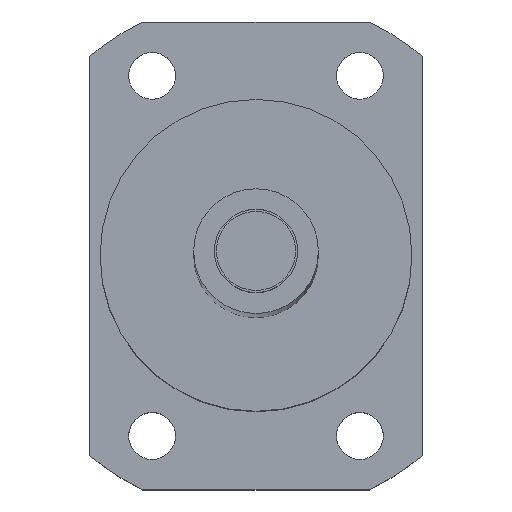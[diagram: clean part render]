
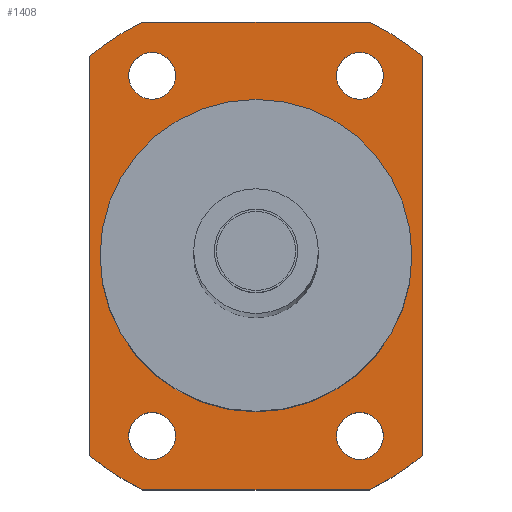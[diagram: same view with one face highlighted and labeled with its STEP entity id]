
A CAD part, top view. The second image highlights one B-rep face of the part: STEP entity #1408.
In plain terms, the highlighted planar face has unit normal (0, 0, 1).
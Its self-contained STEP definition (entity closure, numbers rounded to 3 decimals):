
#328=CARTESIAN_POINT('',(10.,17.321,305.));
#329=DIRECTION('',(0.,0.,-1.));
#330=DIRECTION('',(1.,0.,0.));
#331=AXIS2_PLACEMENT_3D('',#328,#329,#330);
#333=CARTESIAN_POINT('',(10.,17.321,305.));
#334=DIRECTION('',(0.,0.,-1.));
#335=DIRECTION('',(-1.,0.,0.));
#336=AXIS2_PLACEMENT_3D('',#333,#334,#335);
#338=CARTESIAN_POINT('',(-10.,17.321,305.));
#339=DIRECTION('',(0.,0.,-1.));
#340=DIRECTION('',(1.,0.,0.));
#341=AXIS2_PLACEMENT_3D('',#338,#339,#340);
#343=CARTESIAN_POINT('',(-10.,17.321,305.));
#344=DIRECTION('',(0.,0.,-1.));
#345=DIRECTION('',(-1.,0.,0.));
#346=AXIS2_PLACEMENT_3D('',#343,#344,#345);
#348=CARTESIAN_POINT('',(10.,-17.321,305.));
#349=DIRECTION('',(0.,0.,-1.));
#350=DIRECTION('',(1.,0.,0.));
#351=AXIS2_PLACEMENT_3D('',#348,#349,#350);
#353=CARTESIAN_POINT('',(10.,-17.321,305.));
#354=DIRECTION('',(0.,0.,-1.));
#355=DIRECTION('',(-1.,0.,0.));
#356=AXIS2_PLACEMENT_3D('',#353,#354,#355);
#358=CARTESIAN_POINT('',(-10.,-17.321,305.));
#359=DIRECTION('',(0.,0.,-1.));
#360=DIRECTION('',(1.,0.,0.));
#361=AXIS2_PLACEMENT_3D('',#358,#359,#360);
#363=CARTESIAN_POINT('',(-10.,-17.321,305.));
#364=DIRECTION('',(0.,0.,-1.));
#365=DIRECTION('',(-1.,0.,0.));
#366=AXIS2_PLACEMENT_3D('',#363,#364,#365);
#368=CARTESIAN_POINT('',(0.,0.,305.));
#369=DIRECTION('',(0.,0.,1.));
#370=DIRECTION('',(1.,0.,0.));
#371=AXIS2_PLACEMENT_3D('',#368,#369,#370);
#373=CARTESIAN_POINT('',(0.,0.,305.));
#374=DIRECTION('',(0.,0.,1.));
#375=DIRECTION('',(-1.,0.,0.));
#376=AXIS2_PLACEMENT_3D('',#373,#374,#375);
#378=DIRECTION('',(1.,0.,0.));
#379=VECTOR('',#378,21.794);
#380=CARTESIAN_POINT('',(-10.897,22.5,305.));
#381=LINE('',#380,#379);
#382=CARTESIAN_POINT('',(0.,0.,305.));
#383=DIRECTION('',(0.,0.,1.));
#384=DIRECTION('',(0.64,0.768,0.));
#385=AXIS2_PLACEMENT_3D('',#382,#383,#384);
#387=DIRECTION('',(0.,1.,0.));
#388=VECTOR('',#387,38.419);
#389=CARTESIAN_POINT('',(16.,-19.209,305.));
#390=LINE('',#389,#388);
#391=CARTESIAN_POINT('',(0.,0.,305.));
#392=DIRECTION('',(0.,0.,1.));
#393=DIRECTION('',(0.436,-0.9,0.));
#394=AXIS2_PLACEMENT_3D('',#391,#392,#393);
#396=DIRECTION('',(1.,0.,0.));
#397=VECTOR('',#396,21.794);
#398=CARTESIAN_POINT('',(-10.897,-22.5,305.));
#399=LINE('',#398,#397);
#400=CARTESIAN_POINT('',(0.,0.,305.));
#401=DIRECTION('',(0.,0.,1.));
#402=DIRECTION('',(-0.64,-0.768,0.));
#403=AXIS2_PLACEMENT_3D('',#400,#401,#402);
#405=DIRECTION('',(0.,-1.,0.));
#406=VECTOR('',#405,38.419);
#407=CARTESIAN_POINT('',(-16.,19.209,305.));
#408=LINE('',#407,#406);
#409=CARTESIAN_POINT('',(0.,0.,305.));
#410=DIRECTION('',(0.,0.,1.));
#411=DIRECTION('',(-0.436,0.9,0.));
#412=AXIS2_PLACEMENT_3D('',#409,#410,#411);
#721=CARTESIAN_POINT('',(12.25,17.321,305.));
#722=CARTESIAN_POINT('',(7.75,17.321,305.));
#723=VERTEX_POINT('',#721);
#724=VERTEX_POINT('',#722);
#725=CARTESIAN_POINT('',(-7.75,17.321,305.));
#726=CARTESIAN_POINT('',(-12.25,17.321,305.));
#727=VERTEX_POINT('',#725);
#728=VERTEX_POINT('',#726);
#729=CARTESIAN_POINT('',(12.25,-17.321,305.));
#730=CARTESIAN_POINT('',(7.75,-17.321,305.));
#731=VERTEX_POINT('',#729);
#732=VERTEX_POINT('',#730);
#733=CARTESIAN_POINT('',(-7.75,-17.321,305.));
#734=CARTESIAN_POINT('',(-12.25,-17.321,305.));
#735=VERTEX_POINT('',#733);
#736=VERTEX_POINT('',#734);
#737=CARTESIAN_POINT('',(-16.,19.209,305.));
#738=CARTESIAN_POINT('',(-16.,-19.209,305.));
#739=VERTEX_POINT('',#737);
#740=VERTEX_POINT('',#738);
#741=CARTESIAN_POINT('',(16.,-19.209,305.));
#742=CARTESIAN_POINT('',(16.,19.209,305.));
#743=VERTEX_POINT('',#741);
#744=VERTEX_POINT('',#742);
#753=CARTESIAN_POINT('',(15.,0.,305.));
#754=CARTESIAN_POINT('',(-15.,0.,305.));
#755=VERTEX_POINT('',#753);
#756=VERTEX_POINT('',#754);
#829=CARTESIAN_POINT('',(-10.897,22.5,305.));
#830=CARTESIAN_POINT('',(10.897,22.5,305.));
#831=VERTEX_POINT('',#829);
#832=VERTEX_POINT('',#830);
#833=CARTESIAN_POINT('',(-10.897,-22.5,305.));
#834=CARTESIAN_POINT('',(10.897,-22.5,305.));
#835=VERTEX_POINT('',#833);
#836=VERTEX_POINT('',#834);
#1357=CARTESIAN_POINT('',(0.,0.,305.));
#1358=DIRECTION('',(0.,0.,1.));
#1359=DIRECTION('',(1.,0.,0.));
#1360=AXIS2_PLACEMENT_3D('',#1357,#1358,#1359);
#1361=PLANE('',#1360);
#1363=ORIENTED_EDGE('',*,*,#1362,.T.);
#1365=ORIENTED_EDGE('',*,*,#1364,.F.);
#1367=ORIENTED_EDGE('',*,*,#1366,.F.);
#1369=ORIENTED_EDGE('',*,*,#1368,.F.);
#1371=ORIENTED_EDGE('',*,*,#1370,.F.);
#1373=ORIENTED_EDGE('',*,*,#1372,.F.);
#1375=ORIENTED_EDGE('',*,*,#1374,.F.);
#1377=ORIENTED_EDGE('',*,*,#1376,.F.);
#1378=EDGE_LOOP('',(#1363,#1365,#1367,#1369,#1371,#1373,#1375,#1377));
#1379=FACE_OUTER_BOUND('',#1378,.F.);
#1380=ORIENTED_EDGE('',*,*,#1337,.F.);
#1381=ORIENTED_EDGE('',*,*,#1351,.F.);
#1382=EDGE_LOOP('',(#1380,#1381));
#1383=FACE_BOUND('',#1382,.F.);
#1385=ORIENTED_EDGE('',*,*,#1384,.F.);
#1387=ORIENTED_EDGE('',*,*,#1386,.F.);
#1388=EDGE_LOOP('',(#1385,#1387));
#1389=FACE_BOUND('',#1388,.F.);
#1391=ORIENTED_EDGE('',*,*,#1390,.F.);
#1393=ORIENTED_EDGE('',*,*,#1392,.F.);
#1394=EDGE_LOOP('',(#1391,#1393));
#1395=FACE_BOUND('',#1394,.F.);
#1397=ORIENTED_EDGE('',*,*,#1396,.F.);
#1399=ORIENTED_EDGE('',*,*,#1398,.F.);
#1400=EDGE_LOOP('',(#1397,#1399));
#1401=FACE_BOUND('',#1400,.F.);
#1403=ORIENTED_EDGE('',*,*,#1402,.T.);
#1405=ORIENTED_EDGE('',*,*,#1404,.T.);
#1406=EDGE_LOOP('',(#1403,#1405));
#1407=FACE_BOUND('',#1406,.F.);
#1408=ADVANCED_FACE('',(#1379,#1383,#1389,#1395,#1401,#1407),#1361,.T.);
#332=CIRCLE('',#331,2.25);
#337=CIRCLE('',#336,2.25);
#342=CIRCLE('',#341,2.25);
#347=CIRCLE('',#346,2.25);
#352=CIRCLE('',#351,2.25);
#357=CIRCLE('',#356,2.25);
#362=CIRCLE('',#361,2.25);
#367=CIRCLE('',#366,2.25);
#372=CIRCLE('',#371,15.);
#377=CIRCLE('',#376,15.);
#386=CIRCLE('',#385,25.);
#395=CIRCLE('',#394,25.);
#404=CIRCLE('',#403,25.);
#413=CIRCLE('',#412,25.);
#1337=EDGE_CURVE('',#723,#724,#332,.T.);
#1351=EDGE_CURVE('',#724,#723,#337,.T.);
#1362=EDGE_CURVE('',#831,#832,#381,.T.);
#1364=EDGE_CURVE('',#744,#832,#386,.T.);
#1366=EDGE_CURVE('',#743,#744,#390,.T.);
#1368=EDGE_CURVE('',#836,#743,#395,.T.);
#1370=EDGE_CURVE('',#835,#836,#399,.T.);
#1372=EDGE_CURVE('',#740,#835,#404,.T.);
#1374=EDGE_CURVE('',#739,#740,#408,.T.);
#1376=EDGE_CURVE('',#831,#739,#413,.T.);
#1384=EDGE_CURVE('',#727,#728,#342,.T.);
#1386=EDGE_CURVE('',#728,#727,#347,.T.);
#1390=EDGE_CURVE('',#731,#732,#352,.T.);
#1392=EDGE_CURVE('',#732,#731,#357,.T.);
#1396=EDGE_CURVE('',#735,#736,#362,.T.);
#1398=EDGE_CURVE('',#736,#735,#367,.T.);
#1402=EDGE_CURVE('',#755,#756,#372,.T.);
#1404=EDGE_CURVE('',#756,#755,#377,.T.);
